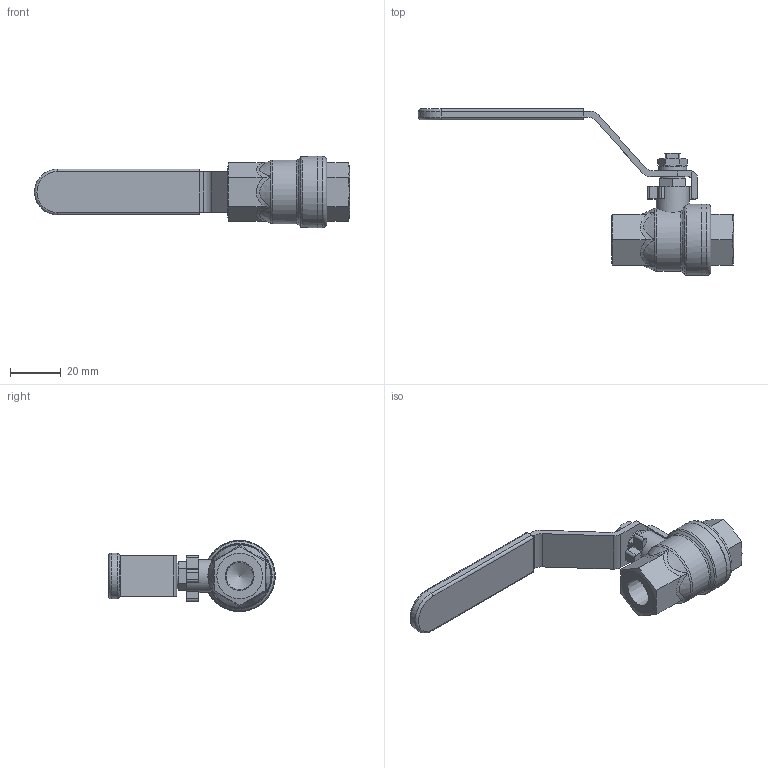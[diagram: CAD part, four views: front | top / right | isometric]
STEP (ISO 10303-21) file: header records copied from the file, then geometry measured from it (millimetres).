
FILE_DESCRIPTION((''),'2;1');
FILE_NAME('F:\Drawings\OneDrive - Avco Valve\Derek\200 Series\Machine Drawings\3D Insertables\200 Series\200-SE-025-LH.stp','2022-10-07T09:27:06',('dKouns'),(''),'Autodesk Inventor 2012','Autodesk Inventor 2012','');
FILE_SCHEMA(('AUTOMOTIVE_DESIGN { 1 0 10303 214 1 1 1 1 }'));
Length unit declared in the file: millimetre
Products named in the file (6): 200-SE-025-LH; 200-025-HANDLE; 200-025-SLEEVE; 200-SE-025; M6 Nut; M6 Washer
Assembly tree (5 placements, depth 2):
  200-SE-025-LH
    200-025-HANDLE
    200-025-SLEEVE
    200-SE-025
    M6 Nut
    M6 Washer
Bounding box: 124 x 65.5 x 28 mm (x, y, z)
Volume: 27339.5 mm3; surface area: 16804.1 mm2
Topology: 5 solids, 5 shells, 220 faces, 568 edges, 372 vertices
Faces by surface type: plane 116, bspline 39, cylinder 36, cone 23, torus 6
Full cylindrical faces by diameter (mm): 6.4 x1, 10 x1, 10.719 x2, 11 x1, 13 x1, 24 x1, 28 x2
Entity records: 7982 total; most frequent: CARTESIAN_POINT 2867, ORIENTED_EDGE 1074, DIRECTION 886, EDGE_CURVE 537, VERTEX_POINT 362, AXIS2_PLACEMENT_3D 306, VECTOR 274, LINE 274
